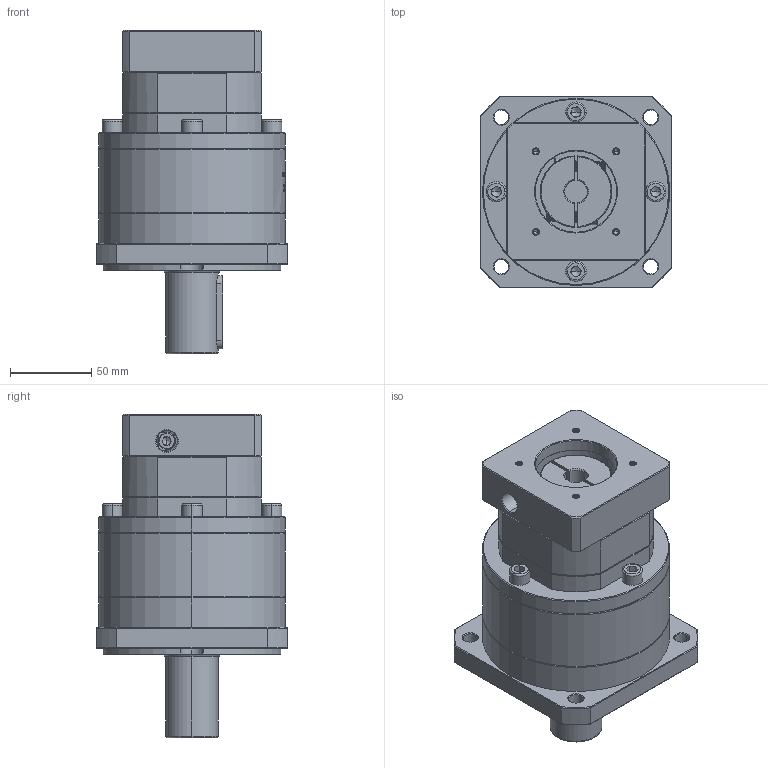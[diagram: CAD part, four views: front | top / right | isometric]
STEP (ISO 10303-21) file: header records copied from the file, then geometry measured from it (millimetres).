
FILE_DESCRIPTION (( 'STEP AP214' ), '1' );
FILE_NAME ('ZF120A-D32-L2-14-50-70-M4.step', '2023-03-07T15:01:33', ( '' ), ( 'Microsoft' ), 'SwSTEP 2.0', 'SolidWorks 2016', '' );
FILE_SCHEMA (( 'AUTOMOTIVE_DESIGN' ));
Length unit declared in the file: millimetre
Products named in the file (1): ZF120A-D32-L2-14-50-70-M4
Bounding box: 118 x 118 x 199 mm (x, y, z)
Volume: 1311138.9 mm3; surface area: 127385.2 mm2
Topology: 5 solids, 6 shells, 1934 faces, 5091 edges, 3249 vertices
Faces by surface type: plane 883, cylinder 394, bspline 336, cone 321
Entity records: 102971 total; most frequent: CARTESIAN_POINT 37847, ORIENTED_EDGE 10122, DIRECTION 7760, EDGE_CURVE 5061, VERTEX_POINT 3249, VECTOR 2732, LINE 2732, AXIS2_PLACEMENT_3D 2514
